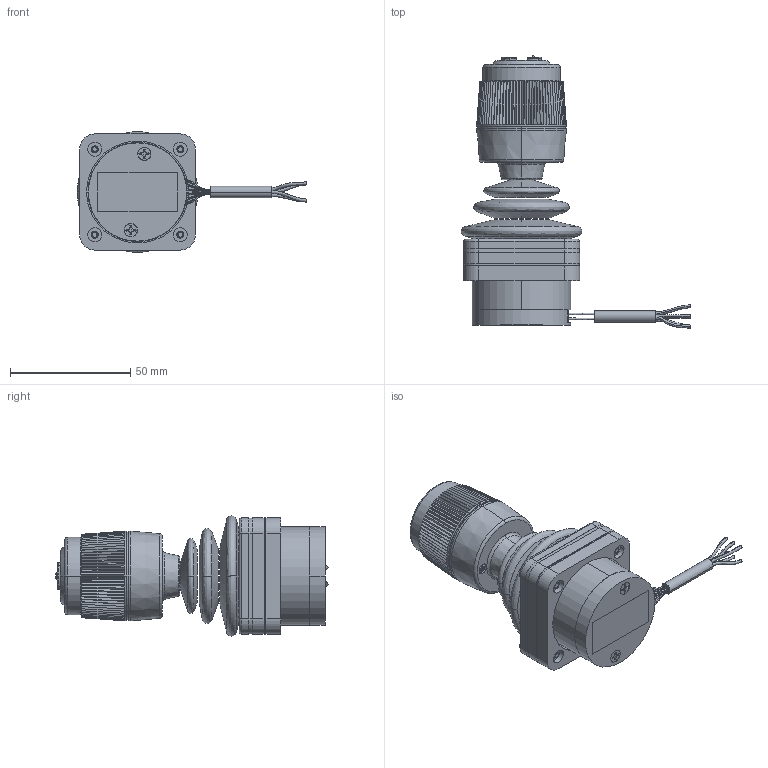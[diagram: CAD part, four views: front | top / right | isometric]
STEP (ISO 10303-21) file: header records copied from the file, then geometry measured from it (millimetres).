
FILE_DESCRIPTION (( 'STEP AP214' ), '1' );
FILE_NAME ('TRY120_X51DX_1_analog.STEP', '2021-03-04T17:08:07', ( '' ), ( '' ), 'SwSTEP 2.0', 'SolidWorks 2020', '' );
FILE_SCHEMA (( 'AUTOMOTIVE_DESIGN' ));
Length unit declared in the file: inch
Products named in the file (1): TRY120_X51DX_1_analog
Bounding box: 95.44 x 113.2 x 50.14 mm (x, y, z)
Surface area: 29928 mm2 (no closed solid volume)
Topology: 0 solids, 53 shells, 732 faces, 2521 edges, 1805 vertices
Faces by surface type: plane 420, cylinder 130, cone 88, bspline 46, torus 34, sphere 14
Entity records: 45916 total; most frequent: CARTESIAN_POINT 15587, DIRECTION 4154, ORIENTED_EDGE 4113, EDGE_CURVE 2521, VERTEX_POINT 1805, AXIS2_PLACEMENT_3D 1416, VECTOR 1322, LINE 1322
